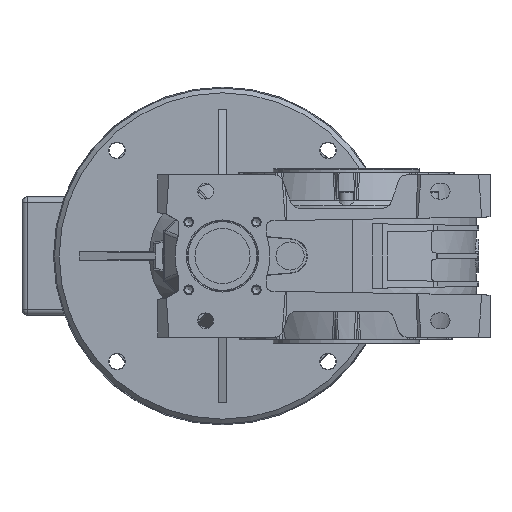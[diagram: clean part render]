
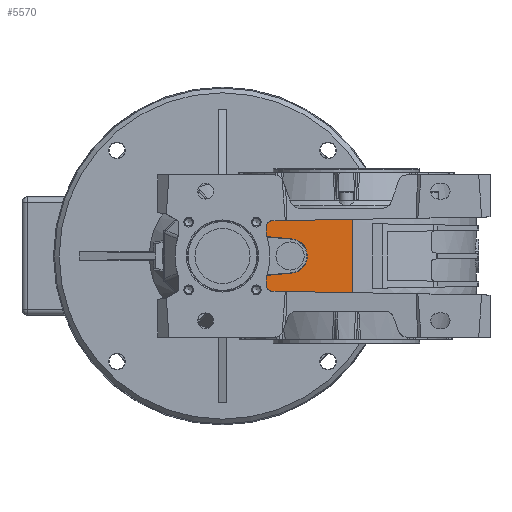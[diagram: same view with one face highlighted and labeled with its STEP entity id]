
A CAD part, left-side view. The second image highlights one B-rep face of the part: STEP entity #5570.
In plain terms, the highlighted planar face has unit normal (-0.999, -0.044, 0).
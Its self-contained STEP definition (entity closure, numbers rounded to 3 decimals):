
#5570 = ADVANCED_FACE( '', ( #11770 ), #11771, .F. );
#11770 = FACE_OUTER_BOUND( '', #23943, .T. );
#11771 = PLANE( '', #23944 );
#23943 = EDGE_LOOP( '', ( #41327, #41328, #41329, #41330, #41331, #41332, #41333, #41334, #41335, #41336, #41337, #41338 ) );
#23944 = AXIS2_PLACEMENT_3D( '', #41339, #41340, #41341 );
#41327 = ORIENTED_EDGE( '', *, *, #46986, .F. );
#41328 = ORIENTED_EDGE( '', *, *, #47703, .T. );
#41329 = ORIENTED_EDGE( '', *, *, #48469, .F. );
#41330 = ORIENTED_EDGE( '', *, *, #45680, .F. );
#41331 = ORIENTED_EDGE( '', *, *, #47931, .F. );
#41332 = ORIENTED_EDGE( '', *, *, #44870, .F. );
#41333 = ORIENTED_EDGE( '', *, *, #49776, .F. );
#41334 = ORIENTED_EDGE( '', *, *, #45676, .F. );
#41335 = ORIENTED_EDGE( '', *, *, #49215, .T. );
#41336 = ORIENTED_EDGE( '', *, *, #46100, .T. );
#41337 = ORIENTED_EDGE( '', *, *, #48050, .F. );
#41338 = ORIENTED_EDGE( '', *, *, #48615, .T. );
#41339 = CARTESIAN_POINT( '', ( -115.39, -5.038, -44. ) );
#41340 = DIRECTION( '', ( 0.999, 0.044, 0. ) );
#41341 = DIRECTION( '', ( 0.044, -0.999, 0. ) );
#44870 = EDGE_CURVE( '', #52861, #52864, #52865, .F. );
#45676 = EDGE_CURVE( '', #54215, #54217, #54218, .F. );
#45680 = EDGE_CURVE( '', #54223, #54225, #54226, .F. );
#46100 = EDGE_CURVE( '', #54876, #54880, #54882, .F. );
#46986 = EDGE_CURVE( '', #56203, #56205, #56206, .F. );
#47703 = EDGE_CURVE( '', #56203, #57204, #57206, .F. );
#47931 = EDGE_CURVE( '', #52864, #54223, #57512, .F. );
#48050 = EDGE_CURVE( '', #57676, #54880, #57678, .F. );
#48469 = EDGE_CURVE( '', #54225, #57204, #58226, .T. );
#48615 = EDGE_CURVE( '', #57676, #56205, #58406, .T. );
#49215 = EDGE_CURVE( '', #54215, #54876, #59125, .T. );
#49776 = EDGE_CURVE( '', #54217, #52861, #59746, .F. );
#52861 = VERTEX_POINT( '', #68525 );
#52864 = VERTEX_POINT( '', #68529 );
#52865 = ELLIPSE( '', #68530, 15.353, 15.338 );
#54215 = VERTEX_POINT( '', #71422 );
#54217 = VERTEX_POINT( '', #71425 );
#54218 = ELLIPSE( '', #71426, 63.06, 63. );
#54223 = VERTEX_POINT( '', #71431 );
#54225 = VERTEX_POINT( '', #71433 );
#54226 = ELLIPSE( '', #71434, 63.06, 63. );
#54876 = VERTEX_POINT( '', #72510 );
#54880 = VERTEX_POINT( '', #72515 );
#54882 = ELLIPSE( '', #72518, 5.005, 5. );
#56203 = VERTEX_POINT( '', #75897 );
#56205 = VERTEX_POINT( '', #75900 );
#56206 = LINE( '', #75901, #75902 );
#57204 = VERTEX_POINT( '', #78375 );
#57206 = ELLIPSE( '', #78378, 5.005, 5. );
#57512 = LINE( '', #78947, #78948 );
#57676 = VERTEX_POINT( '', #79239 );
#57678 = LINE( '', #79241, #79242 );
#58226 = LINE( '', #80551, #80552 );
#58406 = LINE( '', #81187, #81188 );
#59125 = LINE( '', #82721, #82722 );
#59746 = LINE( '', #83965, #83966 );
#68525 = CARTESIAN_POINT( '', ( -117.735, 48.663, -15.283 ) );
#68529 = CARTESIAN_POINT( '', ( -117.735, 48.663, 15.283 ) );
#68530 = AXIS2_PLACEMENT_3D( '', #86123, #86124, #86125 );
#71422 = CARTESIAN_POINT( '', ( -118.71, 71., -19.209 ) );
#71425 = CARTESIAN_POINT( '', ( -118.683, 70.374, -17.133 ) );
#71426 = AXIS2_PLACEMENT_3D( '', #86989, #86990, #86991 );
#71431 = CARTESIAN_POINT( '', ( -118.683, 70.374, 17.133 ) );
#71433 = CARTESIAN_POINT( '', ( -118.71, 71., 19.209 ) );
#71434 = AXIS2_PLACEMENT_3D( '', #87001, #87002, #87003 );
#72510 = CARTESIAN_POINT( '', ( -118.71, 71., -26.296 ) );
#72515 = CARTESIAN_POINT( '', ( -118.495, 66.087, -31.295 ) );
#72518 = AXIS2_PLACEMENT_3D( '', #87470, #87471, #87472 );
#75897 = CARTESIAN_POINT( '', ( -118.495, 66.087, 31.295 ) );
#75900 = CARTESIAN_POINT( '', ( -115.39, -5.038, 32.537 ) );
#75901 = CARTESIAN_POINT( '', ( -115.448, -3.705, 32.514 ) );
#75902 = VECTOR( '', #88623, 1000. );
#78375 = CARTESIAN_POINT( '', ( -118.71, 71., 26.296 ) );
#78378 = AXIS2_PLACEMENT_3D( '', #89388, #89389, #89390 );
#78947 = CARTESIAN_POINT( '', ( -115.188, -9.656, 10.315 ) );
#78948 = VECTOR( '', #89643, 1000. );
#79239 = CARTESIAN_POINT( '', ( -115.39, -5.038, -32.537 ) );
#79241 = CARTESIAN_POINT( '', ( -115.381, -5.238, -32.54 ) );
#79242 = VECTOR( '', #89761, 1000. );
#80551 = CARTESIAN_POINT( '', ( -118.71, 71., -44. ) );
#80552 = VECTOR( '', #90217, 1000. );
#81187 = CARTESIAN_POINT( '', ( -115.39, -5.038, -44. ) );
#81188 = VECTOR( '', #90368, 1000. );
#82721 = CARTESIAN_POINT( '', ( -118.71, 71., -44. ) );
#82722 = VECTOR( '', #90845, 1000. );
#83965 = CARTESIAN_POINT( '', ( -115.513, -2.228, -10.948 ) );
#83966 = VECTOR( '', #91238, 1000. );
#86123 = CARTESIAN_POINT( '', ( -117.792, 49.965, 0. ) );
#86124 = DIRECTION( '', ( 0.999, 0.044, 0. ) );
#86125 = DIRECTION( '', ( 0.044, -0.999, 0. ) );
#86989 = CARTESIAN_POINT( '', ( -121.33, 131., 0. ) );
#86990 = DIRECTION( '', ( 0.999, 0.044, 0. ) );
#86991 = DIRECTION( '', ( 0.044, -0.999, 0. ) );
#87001 = CARTESIAN_POINT( '', ( -121.33, 131., 0. ) );
#87002 = DIRECTION( '', ( 0.999, 0.044, 0. ) );
#87003 = DIRECTION( '', ( 0.044, -0.999, 0. ) );
#87470 = CARTESIAN_POINT( '', ( -118.492, 66., -26.296 ) );
#87471 = DIRECTION( '', ( 0.999, 0.044, 0. ) );
#87472 = DIRECTION( '', ( 0.044, -0.999, 0. ) );
#88623 = DIRECTION( '', ( -0.044, 0.999, -0.017 ) );
#89388 = CARTESIAN_POINT( '', ( -118.492, 66., 26.296 ) );
#89389 = DIRECTION( '', ( 0.999, 0.044, 0. ) );
#89390 = DIRECTION( '', ( 0.044, -0.999, 0. ) );
#89643 = DIRECTION( '', ( 0.043, -0.995, -0.085 ) );
#89761 = DIRECTION( '', ( 0.044, -0.999, -0.017 ) );
#90217 = DIRECTION( '', ( 0., 0., 1. ) );
#90368 = DIRECTION( '', ( 0., 0., 1. ) );
#90845 = DIRECTION( '', ( 0., 0., -1. ) );
#91238 = DIRECTION( '', ( -0.043, 0.995, -0.085 ) );
